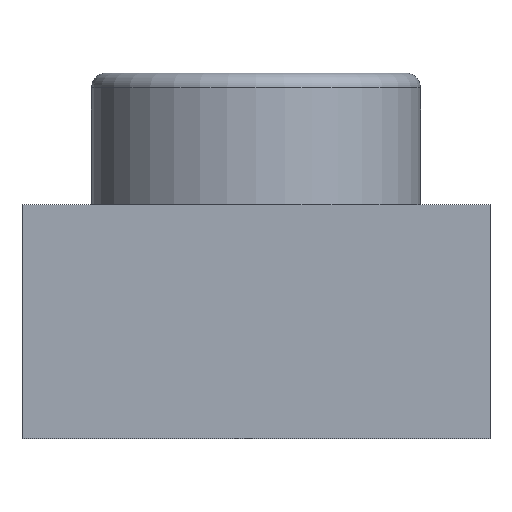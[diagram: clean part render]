
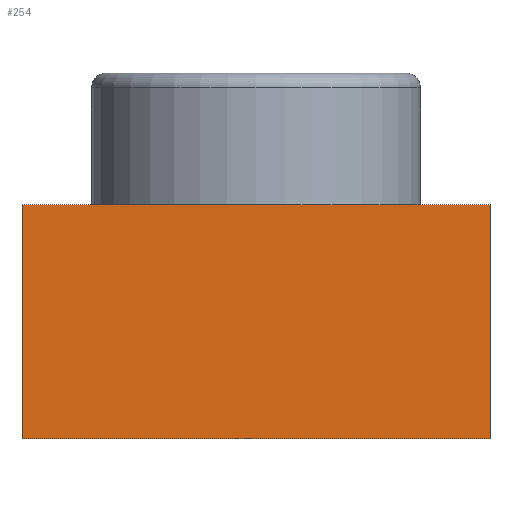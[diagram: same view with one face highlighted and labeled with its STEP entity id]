
A CAD part, front view. The second image highlights one B-rep face of the part: STEP entity #254.
In plain terms, the highlighted planar face has unit normal (0, -1, 0).
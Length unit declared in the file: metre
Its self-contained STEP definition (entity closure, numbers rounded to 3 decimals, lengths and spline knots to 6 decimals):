
#17=PLANE('',#383);
#34=LINE('',#506,#56);
#40=LINE('',#519,#62);
#41=LINE('',#522,#63);
#42=LINE('',#523,#64);
#56=VECTOR('',#436,1.);
#62=VECTOR('',#444,1.);
#63=VECTOR('',#449,1.);
#64=VECTOR('',#450,1.);
#107=ORIENTED_EDGE('',*,*,#151,.T.);
#108=ORIENTED_EDGE('',*,*,#159,.F.);
#109=ORIENTED_EDGE('',*,*,#157,.F.);
#110=ORIENTED_EDGE('',*,*,#160,.T.);
#151=EDGE_CURVE('',#177,#175,#34,.T.);
#157=EDGE_CURVE('',#182,#179,#40,.T.);
#159=EDGE_CURVE('',#179,#175,#41,.T.);
#160=EDGE_CURVE('',#182,#177,#42,.T.);
#175=VERTEX_POINT('',#504);
#177=VERTEX_POINT('',#507);
#179=VERTEX_POINT('',#513);
#182=VERTEX_POINT('',#518);
#203=EDGE_LOOP('',(#107,#108,#109,#110));
#219=FACE_BOUND('',#203,.T.);
#254=ADVANCED_FACE('',(#219),#17,.F.);
#383=AXIS2_PLACEMENT_3D('',#521,#447,#448);
#436=DIRECTION('',(1.,0.,0.));
#444=DIRECTION('',(1.,0.,0.));
#447=DIRECTION('',(0.,1.,0.));
#448=DIRECTION('',(-1.,0.,0.));
#449=DIRECTION('',(0.,0.,-1.));
#450=DIRECTION('',(0.,0.,-1.));
#504=CARTESIAN_POINT('',(-0.0019,0.011375,0.0005));
#506=CARTESIAN_POINT('',(-0.0051,0.011375,0.0005));
#507=CARTESIAN_POINT('',(-0.0051,0.011375,0.0005));
#513=CARTESIAN_POINT('',(-0.0019,0.011375,0.0021));
#518=CARTESIAN_POINT('',(-0.0051,0.011375,0.0021));
#519=CARTESIAN_POINT('',(-0.0051,0.011375,0.0021));
#521=CARTESIAN_POINT('',(-0.0051,0.011375,0.0021));
#522=CARTESIAN_POINT('',(-0.0019,0.011375,0.0021));
#523=CARTESIAN_POINT('',(-0.0051,0.011375,0.0021));
